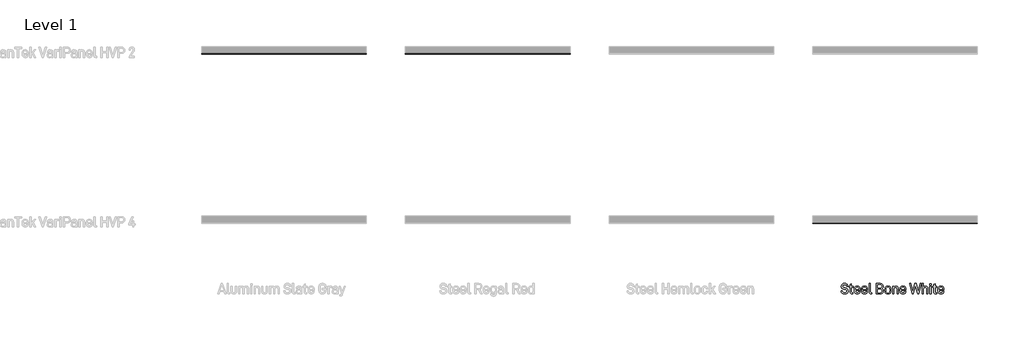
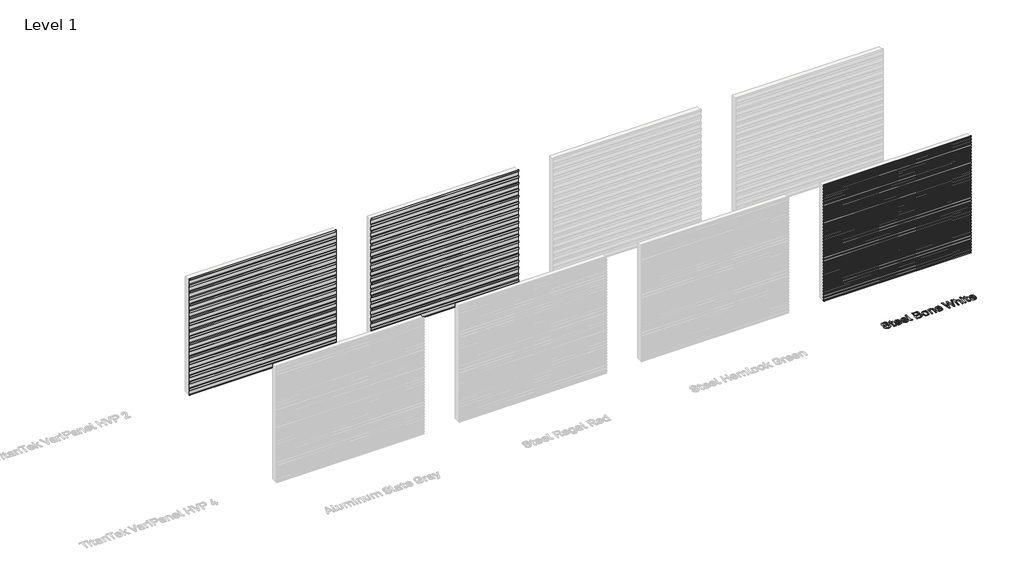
# One storey, part 7 of 9: 4 proxies.
"""IFC4 building model written with IfcOpenShell, lengths in millimetres."""

from ifc_helpers import new_model, si_unit, frame, origin, origin_with_axes, place, context, project, spatial, polyline, outline, extrude, element, save

model = new_model("IFC4")

# Units and contexts
model_context = context("Model", 3, world=origin())
ifc_project = project(units=[si_unit("LENGTHUNIT", "METRE", prefix="MILLI")], contexts=[model_context])

# Site, building, storey
site = spatial("IfcSite", under=ifc_project)
building = spatial("IfcBuilding", under=site)
storey = spatial("IfcBuildingStorey", under=building, Name="Level 1", Elevation=0.0)

# Proxies
placement = place(None, origin())
element("IfcBuildingElementProxy", 1, Name="600mm Arial 2", ObjectType="600mm Arial 2", at=placement, inside=storey, context=model_context, shape_type="SweptSolid", body=[
    extrude(outline(polyline([(16502.982716, -19997.657289), (16490.7951671, -19984.0139672), (16481.6010513, -19967.4681982), (16475.4003686, -19948.019982), (16472.1931189, -19925.6693185), (16511.5717761, -19925.6693185), (16517.1719526, -19951.3682597), (16530.1146836, -19969.7246463), (16550.3999693, -19980.7384782), (16578.0278096, -19984.4097555), (16606.0696353, -19981.079675), (16625.9955271, -19971.0894334), (16637.8964706, -19955.2215086), (16641.8634518, -19933.3849149), (16638.7517372, -19913.7865721), (16629.4165934, -19899.5381947), (16613.1665283, -19889.7845162), (16590.0379361, -19883.67027), (16556.5551591, -19878.0655442), (16523.7820715, -19868.4392459), (16499.1249177, -19852.3711523), (16490.1446186, -19841.4937991), (16483.7301192, -19828.5874624), (16478.5985197, -19796.6878384), (16480.3408979, -19777.2168757), (16485.5680325, -19760.002361), (16494.2799235, -19745.0442944), (16506.476571, -19732.3426757), (16521.2117224, -19722.4070256), (16538.048646, -19715.3101326), (16578.0278096, -19709.6326183), (16615.1864132, -19715.0007809), (16631.118028, -19721.7109842), (16645.2845182, -19731.1052687), (16657.722278, -19743.9615633), (16667.1575062, -19759.8203894), (16673.5902027, -19778.6817472), (16677.0203677, -19800.5456367), (16637.5689217, -19800.5456367), (16632.7011811, -19776.343412), (16621.0822935, -19759.0561086), (16602.7122591, -19748.6837266), (16577.5910777, -19745.226266), (16551.6783199, -19748.5563465), (16533.0444266, -19758.5465881), (16521.471032, -19774.1597526), (16517.6132337, -19794.5041791), (16520.5065824, -19812.3010029), (16529.1866284, -19825.3665648), (16544.6178213, -19834.9018774), (16566.8911468, -19841.2344896), (16601.1745989, -19847.2031585), (16635.2396851, -19857.1934001), (16660.2789792, -19874.207746), (16669.4821935, -19885.5218311), (16676.0559181, -19898.8648997), (16681.3148977, -19931.6379874), (16679.5179281, -19951.6503157), (16674.127019, -19969.2515201), (16665.1421705, -19984.4416005), (16652.5633827, -19997.2205571), (16637.1776828, -20007.3472775), (16619.2625774, -20014.5806491), (16598.8180665, -20018.9206721), (16575.8441502, -20020.3673465), (16534.9187342, -20014.6898321), (16517.8270504, -20007.5929391), (16502.982716, -19997.657289)])), origin_with_axes(), (0.0, 0.0, 1.0), 5.0),
    extrude(outline(polyline([(16777.9054305, -19958.2058431), (16779.3794006, -19969.2879144), (16783.8013108, -19977.2036796), (16791.1711612, -19981.9531387), (16801.4889517, -19983.5362918), (16822.9616021, -19983.5362918), (16822.9616021, -20017.8197439), (16796.8304784, -20017.8197439), (16773.0467884, -20013.8527627), (16754.8314298, -20001.9518191), (16743.5309926, -19983.4089116), (16739.7641802, -19959.5160387), (16739.7641802, -19823.692426), (16705.91746, -19823.692426), (16705.91746, -19791.9565765), (16739.7641802, -19791.9565765), (16739.7641802, -19743.9160704), (16777.9054305, -19725.9372749), (16777.9054305, -19791.9565765), (16826.8194004, -19791.9565765), (16826.8194004, -19823.692426), (16777.9054305, -19823.692426), (16777.9054305, -19958.2058431)])), origin_with_axes(), (0.0, 0.0, 1.0), 5.0),
    extrude(outline(polyline([(16898.8073709, -19923.5584478), (16902.2284372, -19952.9741592), (16912.4916363, -19971.9265028), (16928.9782645, -19982.2169976), (16951.0696184, -19985.6471625), (16970.3404124, -19983.0813627), (16984.4796068, -19975.3839635), (16993.1596528, -19963.6104), (16996.0530014, -19947.9426441), (16996.0530014, -19942.410707), (17032.9568448, -19942.410707), (17032.9568448, -19948.8161078), (17027.2793304, -19977.9679604), (17020.1824375, -19990.2783401), (17010.2467873, -20001.0783554), (16983.5333544, -20015.5450987), (16948.9587477, -20020.3673465), (16930.0086788, -20018.8683553), (16913.0466497, -20014.3713818), (16898.0726605, -20006.8764259), (16885.0867112, -19996.3834877), (16874.593773, -19982.7833842), (16867.0988171, -19965.9669324), (16862.6018436, -19945.9341324), (16861.1028524, -19922.684984), (16861.1028524, -19884.9804656), (16862.599569, -19862.2749574), (16867.0897186, -19842.635671), (16874.5733012, -19826.0626062), (16885.0503169, -19812.5557632), (16897.8338227, -19802.2379727), (16912.6008192, -19794.8681223), (16929.3513063, -19790.4462121), (16948.085284, -19788.972242), (16966.4871634, -19790.4462121), (16983.1148197, -19794.8681223), (16997.9682527, -19802.2379727), (17011.0474624, -19812.5557632), (17021.365253, -19825.8988318), (17028.7351033, -19842.4173051), (17033.1570136, -19862.111183), (17034.6309836, -19884.9804656), (17034.6309836, -19914.9693876), (16898.8073709, -19914.9693876), (16898.8073709, -19923.5584478)]), holes=[polyline([(16912.0549044, -19837.3766913), (16902.1192543, -19855.5010641), (16898.8073709, -19884.1070018), (16996.9264652, -19884.5437337), (16996.9264652, -19881.1226674), (16993.7055676, -19853.8815167), (16984.0428749, -19836.5032276), (16968.4297104, -19827.2226753), (16948.085284, -19824.1291578), (16927.7226604, -19827.4410412), (16912.0549044, -19837.3766913)])]), origin_with_axes(), (0.0, 0.0, 1.0), 5.0),
    extrude(outline(polyline([(17113.0971436, -19923.5584478), (17116.51821, -19952.9741592), (17126.781409, -19971.9265028), (17143.2680372, -19982.2169976), (17165.3593912, -19985.6471625), (17184.6301851, -19983.0813627), (17198.7693795, -19975.3839635), (17207.4494255, -19963.6104), (17210.3427742, -19947.9426441), (17210.3427742, -19942.410707), (17247.2466175, -19942.410707), (17247.2466175, -19948.8161078), (17241.5691031, -19977.9679604), (17234.4722102, -19990.2783401), (17224.5365601, -20001.0783554), (17197.8231271, -20015.5450987), (17163.2485204, -20020.3673465), (17144.2984515, -20018.8683553), (17127.3364224, -20014.3713818), (17112.3624332, -20006.8764259), (17099.3764839, -19996.3834877), (17088.8835457, -19982.7833842), (17081.3885899, -19965.9669324), (17076.8916163, -19945.9341324), (17075.3926252, -19922.684984), (17075.3926252, -19884.9804656), (17076.8893417, -19862.2749574), (17081.3794913, -19842.635671), (17088.8630739, -19826.0626062), (17099.3400896, -19812.5557632), (17112.1235955, -19802.2379727), (17126.890592, -19794.8681223), (17143.641079, -19790.4462121), (17162.3750567, -19788.972242), (17180.7769362, -19790.4462121), (17197.4045924, -19794.8681223), (17212.2580254, -19802.2379727), (17225.3372352, -19812.5557632), (17235.6550257, -19825.8988318), (17243.0248761, -19842.4173051), (17247.4467863, -19862.111183), (17248.9207564, -19884.9804656), (17248.9207564, -19914.9693876), (17113.0971436, -19914.9693876), (17113.0971436, -19923.5584478)]), holes=[polyline([(17126.3446771, -19837.3766913), (17116.409027, -19855.5010641), (17113.0971436, -19884.1070018), (17211.2162379, -19884.5437337), (17211.2162379, -19881.1226674), (17207.9953403, -19853.8815167), (17198.3326476, -19836.5032276), (17182.7194832, -19827.2226753), (17162.3750567, -19824.1291578), (17142.0124331, -19827.4410412), (17126.3446771, -19837.3766913)])]), origin_with_axes(), (0.0, 0.0, 1.0), 5.0),
    extrude(outline(polyline([(17311.5189916, -20001.9518191), (17300.2731458, -19982.4444621), (17296.5245306, -19956.5317042), (17296.5245306, -19713.4904165), (17334.229049, -19713.4904165), (17334.229049, -19954.7847767), (17335.6120333, -19968.1960847), (17339.7609861, -19976.6941591), (17346.7486961, -19981.1706608), (17357.3758383, -19982.662828), (17379.212432, -19982.662828), (17379.212432, -20017.8197439), (17354.3915039, -20017.8197439), (17329.5159842, -20013.8527627), (17311.5189916, -20001.9518191)])), origin_with_axes(), (0.0, 0.0, 1.0), 5.0),
    extrude(outline(polyline([(17704.1409461, -19884.9804656), (17714.1311877, -19906.6896791), (17717.4612683, -19932.5114512), (17715.8803899, -19951.3819076), (17711.1377547, -19968.1050989), (17703.2333627, -19982.6810252), (17692.1672139, -19995.1096864), (17678.3942374, -20005.0453365), (17662.3693621, -20012.1422295), (17623.5639154, -20017.8197439), (17508.2667007, -20017.8197439), (17508.2667007, -19713.4904165), (17621.0163128, -19713.4904165), (17659.4487177, -19718.8585791), (17675.0618822, -19725.5687824), (17688.2730214, -19734.9630669), (17698.9729523, -19746.9549963), (17706.6157601, -19761.0941907), (17711.2014447, -19777.3806502), (17712.7300063, -19795.8143747), (17709.5091087, -19818.6518123), (17699.846416, -19839.1236188), (17688.4004015, -19852.1891807), (17674.588756, -19861.3969444), (17691.4029331, -19871.5873548), (17704.1409461, -19884.9804656)]), holes=[polyline([(17548.1548785, -19844.218824), (17617.5952465, -19844.218824), (17640.9422045, -19841.3254754), (17658.7208312, -19832.6454294), (17669.3115792, -19818.0695031), (17672.8418285, -19797.4885135), (17669.4207621, -19777.0349041), (17659.1575631, -19761.9676545), (17641.9794427, -19752.9600596), (17617.9591897, -19749.9575279), (17548.1548785, -19749.9575279), (17548.1548785, -19844.218824)]), polyline([(17662.5786295, -19968.1050989), (17673.8244752, -19952.4555401), (17677.5730905, -19930.4005805), (17673.9336582, -19908.7277612), (17663.0153613, -19893.4967371), (17645.0183687, -19883.8886359), (17620.1428491, -19880.6859355), (17548.1548785, -19880.6859355), (17548.1548785, -19981.3526324), (17619.7061172, -19981.3526324), (17644.5816368, -19978.040749), (17662.5786295, -19968.1050989)])]), origin_with_axes(), (0.0, 0.0, 1.0), 5.0),
    extrude(outline(polyline([(17788.794141, -19998.0940209), (17778.3171253, -19985.1330927), (17770.8335427, -19968.9603655), (17766.3433931, -19949.5758393), (17764.8466766, -19926.9795141), (17764.8466766, -19882.3600743), (17766.3456677, -19859.9548194), (17770.8426412, -19840.7067719), (17778.3375971, -19824.6159319), (17788.8305353, -19811.6822994), (17801.8164846, -19801.7466493), (17816.7904738, -19794.6497564), (17852.7025718, -19788.972242), (17887.5865302, -19794.6497564), (17902.3125831, -19801.7466493), (17915.2280184, -19811.6822994), (17925.7368791, -19824.4521575), (17933.2432082, -19840.4884059), (17937.7470057, -19859.7910449), (17939.2482715, -19882.3600743), (17939.2482715, -19926.9795141), (17937.7470057, -19949.5485435), (17933.2432082, -19968.8511825), (17925.7368791, -19984.887431), (17915.2280184, -19997.657289), (17902.3125831, -20007.5929391), (17887.5865302, -20014.6898321), (17852.7025718, -20020.3673465), (17816.5630093, -20014.7990151), (17801.6322383, -20007.8386008), (17788.794141, -19998.0940209)]), holes=[polyline([(17888.2234309, -19972.399629), (17898.2136725, -19954.1660733), (17901.543753, -19925.2325866), (17901.543753, -19884.1070018), (17898.2136725, -19855.5010641), (17888.2234309, -19837.3766913), (17872.9378153, -19827.4410412), (17852.7025718, -19824.1291578), (17831.6848504, -19827.4410412), (17815.7987285, -19837.3766913), (17805.8630784, -19855.5010641), (17802.551195, -19884.1070018), (17802.551195, -19925.2325866), (17805.8630784, -19954.1660733), (17815.7987285, -19972.399629), (17831.6848504, -19982.3352791), (17852.7025718, -19985.6471625), (17872.9378153, -19982.3352791), (17888.2234309, -19972.399629)])]), origin_with_axes(), (0.0, 0.0, 1.0), 5.0),
    extrude(outline(polyline([(18027.9048419, -19791.9565765), (18027.9048419, -19810.3721038), (18046.3203692, -19797.1245703), (18063.4802924, -19791.337873), (18082.3507488, -19789.4089739), (18114.6871046, -19794.8681223), (18127.8118073, -19801.6920578), (18138.9075264, -19811.2455676), (18147.5375302, -19822.8280608), (18153.7018187, -19836.6124106), (18158.6332494, -19870.7866797), (18158.6332494, -20017.8197439), (18120.928731, -20017.8197439), (18120.928731, -19875.0812098), (18117.9261993, -19852.6987012), (18108.9186044, -19836.9399595), (18094.2243966, -19827.3318582), (18075.0354899, -19824.1291578), (18055.8647804, -19827.3318582), (18041.225164, -19836.9399595), (18031.5624713, -19853.3537991), (18028.3415737, -19875.0812098), (18028.3415737, -20017.8197439), (17990.6370553, -20017.8197439), (17990.6370553, -19791.9565765), (18027.9048419, -19791.9565765)])), origin_with_axes(), (0.0, 0.0, 1.0), 5.0),
    extrude(outline(polyline([(18245.1061604, -19923.5584478), (18248.5272268, -19952.9741592), (18258.7904258, -19971.9265028), (18275.277054, -19982.2169976), (18297.368408, -19985.6471625), (18316.6392019, -19983.0813627), (18330.7783963, -19975.3839635), (18339.4584423, -19963.6104), (18342.351791, -19947.9426441), (18342.351791, -19942.410707), (18379.2556343, -19942.410707), (18379.2556343, -19948.8161078), (18373.5781199, -19977.9679604), (18366.481227, -19990.2783401), (18356.5455769, -20001.0783554), (18329.8321439, -20015.5450987), (18295.2575372, -20020.3673465), (18276.3074683, -20018.8683553), (18259.3454392, -20014.3713818), (18244.37145, -20006.8764259), (18231.3855007, -19996.3834877), (18220.8925625, -19982.7833842), (18213.3976067, -19965.9669324), (18208.9006331, -19945.9341324), (18207.401642, -19922.684984), (18207.401642, -19884.9804656), (18208.8983585, -19862.2749574), (18213.3885081, -19842.635671), (18220.8720907, -19826.0626062), (18231.3491064, -19812.5557632), (18244.1326123, -19802.2379727), (18258.8996088, -19794.8681223), (18275.6500958, -19790.4462121), (18294.3840735, -19788.972242), (18312.785953, -19790.4462121), (18329.4136092, -19794.8681223), (18344.2670422, -19802.2379727), (18357.346252, -19812.5557632), (18367.6640425, -19825.8988318), (18375.0338929, -19842.4173051), (18379.4558031, -19862.111183), (18380.9297732, -19884.9804656), (18380.9297732, -19914.9693876), (18245.1061604, -19914.9693876), (18245.1061604, -19923.5584478)]), holes=[polyline([(18258.3536939, -19837.3766913), (18248.4180438, -19855.5010641), (18245.1061604, -19884.1070018), (18343.2252547, -19884.5437337), (18343.2252547, -19881.1226674), (18340.0043571, -19853.8815167), (18330.3416644, -19836.5032276), (18314.7285, -19827.2226753), (18294.3840735, -19824.1291578), (18274.0214499, -19827.4410412), (18258.3536939, -19837.3766913)])]), origin_with_axes(), (0.0, 0.0, 1.0), 5.0),
    extrude(outline(polyline([(18799.3916969, -19713.4904165), (18837.5329472, -19713.4904165), (18761.2504466, -20017.8197439), (18726.5302626, -20017.8197439), (18664.3687592, -19774.7784561), (18603.9541834, -20017.8197439), (18569.2339994, -20017.8197439), (18491.2773599, -19713.4904165), (18530.6560172, -19713.4904165), (18587.2855835, -19944.0848458), (18641.6587018, -19713.4904165), (18688.3890123, -19713.4904165), (18744.9457899, -19944.0848458), (18799.3916969, -19713.4904165)])), origin_with_axes(), (0.0, 0.0, 1.0), 5.0),
    extrude(outline(polyline([(18899.4760846, -19713.4904165), (18899.4760846, -19810.8088357), (18923.0596058, -19794.7589393), (18953.4852597, -19789.4089739), (18985.2757006, -19794.7589393), (18998.3731076, -19801.4463961), (19009.6053054, -19810.8088357), (19018.4263794, -19822.5823991), (19024.7271466, -19836.5032276), (19029.7677603, -19870.7866797), (19029.7677603, -20017.8197439), (18992.0632418, -20017.8197439), (18992.0632418, -19875.0812098), (18989.0607102, -19852.6987012), (18980.0531153, -19836.9399595), (18965.3589075, -19827.3318582), (18946.1700008, -19824.1291578), (18926.9992912, -19827.3318582), (18912.3596749, -19836.9399595), (18902.6969822, -19853.3537991), (18899.4760846, -19875.0812098), (18899.4760846, -20017.8197439), (18861.7715662, -20017.8197439), (18861.7715662, -19713.4904165), (18899.4760846, -19713.4904165)])), origin_with_axes(), (0.0, 0.0, 1.0), 5.0),
    extrude(outline(polyline([(19127.3773341, -19717.7849466), (19127.3773341, -19764.9519889), (19087.9258881, -19764.9519889), (19087.9258881, -19717.7849466), (19127.3773341, -19717.7849466)])), origin_with_axes(), (0.0, 0.0, 1.0), 5.0),
    extrude(outline(polyline([(19126.5038703, -19791.9565765), (19126.5038703, -20017.8197439), (19088.7993519, -20017.8197439), (19088.7993519, -19791.9565765), (19126.5038703, -19791.9565765)])), origin_with_axes(), (0.0, 0.0, 1.0), 5.0),
    extrude(outline(polyline([(19242.2378169, -19958.2058431), (19243.7117869, -19969.2879144), (19248.1336972, -19977.2036796), (19255.5035475, -19981.9531387), (19265.821338, -19983.5362918), (19287.2939885, -19983.5362918), (19287.2939885, -20017.8197439), (19261.1628647, -20017.8197439), (19237.3791748, -20013.8527627), (19219.1638162, -20001.9518191), (19207.863379, -19983.4089116), (19204.0965666, -19959.5160387), (19204.0965666, -19823.692426), (19170.2498463, -19823.692426), (19170.2498463, -19791.9565765), (19204.0965666, -19791.9565765), (19204.0965666, -19743.9160704), (19242.2378169, -19725.9372749), (19242.2378169, -19791.9565765), (19291.1517867, -19791.9565765), (19291.1517867, -19823.692426), (19242.2378169, -19823.692426), (19242.2378169, -19958.2058431)])), origin_with_axes(), (0.0, 0.0, 1.0), 5.0),
    extrude(outline(polyline([(19363.1397572, -19923.5584478), (19366.5608236, -19952.9741592), (19376.8240226, -19971.9265028), (19393.3106509, -19982.2169976), (19415.4020048, -19985.6471625), (19434.6727987, -19983.0813627), (19448.8119932, -19975.3839635), (19457.4920391, -19963.6104), (19460.3853878, -19947.9426441), (19460.3853878, -19942.410707), (19497.2892311, -19942.410707), (19497.2892311, -19948.8161078), (19491.6117168, -19977.9679604), (19484.5148238, -19990.2783401), (19474.5791737, -20001.0783554), (19447.8657408, -20015.5450987), (19413.2911341, -20020.3673465), (19394.3410651, -20018.8683553), (19377.379036, -20014.3713818), (19362.4050469, -20006.8764259), (19349.4190975, -19996.3834877), (19338.9261594, -19982.7833842), (19331.4312035, -19965.9669324), (19326.93423, -19945.9341324), (19325.4352388, -19922.684984), (19325.4352388, -19884.9804656), (19326.9319553, -19862.2749574), (19331.4221049, -19842.635671), (19338.9056875, -19826.0626062), (19349.3827032, -19812.5557632), (19362.1662091, -19802.2379727), (19376.9332056, -19794.8681223), (19393.6836927, -19790.4462121), (19412.4176703, -19788.972242), (19430.8195498, -19790.4462121), (19447.447206, -19794.8681223), (19462.300639, -19802.2379727), (19475.3798488, -19812.5557632), (19485.6976393, -19825.8988318), (19493.0674897, -19842.4173051), (19497.4893999, -19862.111183), (19498.96337, -19884.9804656), (19498.96337, -19914.9693876), (19363.1397572, -19914.9693876), (19363.1397572, -19923.5584478)]), holes=[polyline([(19376.3872908, -19837.3766913), (19366.4516406, -19855.5010641), (19363.1397572, -19884.1070018), (19461.2588516, -19884.5437337), (19461.2588516, -19881.1226674), (19458.037954, -19853.8815167), (19448.3752613, -19836.5032276), (19432.7620968, -19827.2226753), (19412.4176703, -19824.1291578), (19392.0550467, -19827.4410412), (19376.3872908, -19837.3766913)])]), origin_with_axes(), (0.0, 0.0, 1.0), 5.0),
])
element("IfcBuildingElementProxy", 2, Name="TitanTek VariPanel HVP 2 : Aluminum Slate Gray", ObjectType="TitanTek VariPanel HVP 2 : Aluminum Slate Gray", at=placement, inside=storey, context=model_context, shape_type="SweptSolid", body=[
    extrude(outline(polyline([(-12945.79831, 3997.729257), (-12921.3904975, 3972.7489785), (-12921.3904975, 3845.7489785), (-12945.79831, 3836.3796971), (-12945.79831, 3768.1495599), (-12921.3904975, 3743.1692814), (-12921.3904975, 3616.1692814), (-12945.79831, 3606.8), (-12945.79831, 3607.8627767), (-12922.382685, 3616.851193), (-12922.382685, 3742.7650244), (-12946.7904975, 3767.7453029), (-12946.7904975, 3837.0616087), (-12922.382685, 3846.43089), (-12922.382685, 3972.3447215), (-12946.7904975, 3997.325), (-12946.7904975, 4057.2691349), (-12945.79831, 4057.65), (-12945.79831, 3997.729257)])), frame((-2360.5897817, 0.0, 0.0), z_axis=(1.0, 0.0, 0.0), x_axis=(0.0, 1.0, 0.0)), (0.0, 0.0, 1.0), 4850.0),
    extrude(outline(polyline([(-12945.79831, 3546.879257), (-12921.3904975, 3521.8989785), (-12921.3904975, 3394.8989785), (-12945.79831, 3385.5296971), (-12945.79831, 3317.2995599), (-12921.3904975, 3292.3192814), (-12921.3904975, 3165.3192814), (-12945.79831, 3155.95), (-12945.79831, 3157.0127767), (-12922.382685, 3166.001193), (-12922.382685, 3291.9150244), (-12946.7904975, 3316.8953029), (-12946.7904975, 3386.2116087), (-12922.382685, 3395.58089), (-12922.382685, 3521.4947215), (-12946.7904975, 3546.475), (-12946.7904975, 3606.4191349), (-12945.79831, 3606.8), (-12945.79831, 3546.879257)])), frame((-2360.5897817, 0.0, 0.0), z_axis=(1.0, 0.0, 0.0), x_axis=(0.0, 1.0, 0.0)), (0.0, 0.0, 1.0), 4850.0),
    extrude(outline(polyline([(-12945.79831, 3096.029257), (-12921.3904975, 3071.0489785), (-12921.3904975, 2944.0489785), (-12945.79831, 2934.6796971), (-12945.79831, 2866.4495599), (-12921.3904975, 2841.4692814), (-12921.3904975, 2714.4692814), (-12945.79831, 2705.1), (-12945.79831, 2706.1627767), (-12922.382685, 2715.151193), (-12922.382685, 2841.0650244), (-12946.7904975, 2866.0453029), (-12946.7904975, 2935.3616087), (-12922.382685, 2944.73089), (-12922.382685, 3070.6447215), (-12946.7904975, 3095.625), (-12946.7904975, 3155.5691349), (-12945.79831, 3155.95), (-12945.79831, 3096.029257)])), frame((-2360.5897817, 0.0, 0.0), z_axis=(1.0, 0.0, 0.0), x_axis=(0.0, 1.0, 0.0)), (0.0, 0.0, 1.0), 4850.0),
    extrude(outline(polyline([(-12945.79831, 2645.179257), (-12921.3904975, 2620.1989785), (-12921.3904975, 2493.1989785), (-12945.79831, 2483.8296971), (-12945.79831, 2415.5995599), (-12921.3904975, 2390.6192814), (-12921.3904975, 2263.6192814), (-12945.79831, 2254.25), (-12945.79831, 2255.3127767), (-12922.382685, 2264.301193), (-12922.382685, 2390.2150244), (-12946.7904975, 2415.1953029), (-12946.7904975, 2484.5116087), (-12922.382685, 2493.88089), (-12922.382685, 2619.7947215), (-12946.7904975, 2644.775), (-12946.7904975, 2704.7191349), (-12945.79831, 2705.1), (-12945.79831, 2645.179257)])), frame((-2360.5897817, 0.0, 0.0), z_axis=(1.0, 0.0, 0.0), x_axis=(0.0, 1.0, 0.0)), (0.0, 0.0, 1.0), 4850.0),
    extrude(outline(polyline([(-12945.79831, 2194.329257), (-12921.3904975, 2169.3489785), (-12921.3904975, 2042.3489785), (-12945.79831, 2032.9796971), (-12945.79831, 1964.7495599), (-12921.3904975, 1939.7692814), (-12921.3904975, 1812.7692814), (-12945.79831, 1803.4), (-12945.79831, 1804.4627767), (-12922.382685, 1813.451193), (-12922.382685, 1939.3650244), (-12946.7904975, 1964.3453029), (-12946.7904975, 2033.6616087), (-12922.382685, 2043.03089), (-12922.382685, 2168.9447215), (-12946.7904975, 2193.925), (-12946.7904975, 2253.8691349), (-12945.79831, 2254.25), (-12945.79831, 2194.329257)])), frame((-2360.5897817, 0.0, 0.0), z_axis=(1.0, 0.0, 0.0), x_axis=(0.0, 1.0, 0.0)), (0.0, 0.0, 1.0), 4850.0),
    extrude(outline(polyline([(-12945.79831, 1743.479257), (-12921.3904975, 1718.4989785), (-12921.3904975, 1591.4989785), (-12945.79831, 1582.1296971), (-12945.79831, 1513.8995599), (-12921.3904975, 1488.9192814), (-12921.3904975, 1361.9192814), (-12945.79831, 1352.55), (-12945.79831, 1353.6127767), (-12922.382685, 1362.601193), (-12922.382685, 1488.5150244), (-12946.7904975, 1513.4953029), (-12946.7904975, 1582.8116087), (-12922.382685, 1592.18089), (-12922.382685, 1718.0947215), (-12946.7904975, 1743.075), (-12946.7904975, 1803.0191349), (-12945.79831, 1803.4), (-12945.79831, 1743.479257)])), frame((-2360.5897817, 0.0, 0.0), z_axis=(1.0, 0.0, 0.0), x_axis=(0.0, 1.0, 0.0)), (0.0, 0.0, 1.0), 4850.0),
    extrude(outline(polyline([(-12945.79831, 1292.629257), (-12921.3904975, 1267.6489785), (-12921.3904975, 1140.6489785), (-12945.79831, 1131.2796971), (-12945.79831, 1063.0495599), (-12921.3904975, 1038.0692814), (-12921.3904975, 911.0692814), (-12945.79831, 901.7), (-12945.79831, 902.7627767), (-12922.382685, 911.751193), (-12922.382685, 1037.6650244), (-12946.7904975, 1062.6453029), (-12946.7904975, 1131.9616087), (-12922.382685, 1141.33089), (-12922.382685, 1267.2447215), (-12946.7904975, 1292.225), (-12946.7904975, 1352.1691349), (-12945.79831, 1352.55), (-12945.79831, 1292.629257)])), frame((-2360.5897817, 0.0, 0.0), z_axis=(1.0, 0.0, 0.0), x_axis=(0.0, 1.0, 0.0)), (0.0, 0.0, 1.0), 4850.0),
    extrude(outline(polyline([(-12945.79831, 841.779257), (-12921.3904975, 816.7989785), (-12921.3904975, 689.7989785), (-12945.79831, 680.4296971), (-12945.79831, 612.1995599), (-12921.3904975, 587.2192814), (-12921.3904975, 460.2192814), (-12945.79831, 450.85), (-12945.79831, 451.9127767), (-12922.382685, 460.901193), (-12922.382685, 586.8150244), (-12946.7904975, 611.7953029), (-12946.7904975, 681.1116087), (-12922.382685, 690.48089), (-12922.382685, 816.3947215), (-12946.7904975, 841.375), (-12946.7904975, 901.3191349), (-12945.79831, 901.7), (-12945.79831, 841.779257)])), frame((-2360.5897817, 0.0, 0.0), z_axis=(1.0, 0.0, 0.0), x_axis=(0.0, 1.0, 0.0)), (0.0, 0.0, 1.0), 4850.0),
    extrude(outline(polyline([(-12945.79831, 390.929257), (-12921.3904975, 365.9489785), (-12921.3904975, 238.9489785), (-12945.79831, 229.5796971), (-12945.79831, 161.3495599), (-12921.3904975, 136.3692814), (-12921.3904975, 9.3692814), (-12945.79831, 0.0), (-12945.79831, 1.0627767), (-12922.382685, 10.051193), (-12922.382685, 135.9650244), (-12946.7904975, 160.9453029), (-12946.7904975, 230.2616087), (-12922.382685, 239.63089), (-12922.382685, 365.5447215), (-12946.7904975, 390.525), (-12946.7904975, 450.4691349), (-12945.79831, 450.85), (-12945.79831, 390.929257)])), frame((-2360.5897817, 0.0, 0.0), z_axis=(1.0, 0.0, 0.0), x_axis=(0.0, 1.0, 0.0)), (0.0, 0.0, 1.0), 4850.0),
])
element("IfcBuildingElementProxy", 3, Name="TitanTek VariPanel HVP 4 : Steel Bone White", ObjectType="TitanTek VariPanel HVP 4 : Steel Bone White", at=placement, inside=storey, context=model_context, shape_type="SweptSolid", body=[
    extrude(outline(polyline([(-17945.79831, 375.054257), (-17921.3904975, 350.0739785), (-17921.3904975, 318.3239785), (-17945.79831, 308.9546971), (-17945.79831, 272.0693579), (-17921.3904975, 247.0890794), (-17921.3904975, 215.3390794), (-17945.79831, 205.9697981), (-17945.79831, 169.0844589), (-17921.3904975, 144.1041804), (-17921.3904975, 112.3541804), (-17945.79831, 102.984899), (-17945.79831, 66.0995599), (-17921.3904975, 41.1192814), (-17921.3904975, 9.3692814), (-17945.79831, 0.0), (-17945.79831, 1.0627767), (-17922.382685, 10.051193), (-17922.382685, 40.7150244), (-17946.7904975, 65.6953029), (-17946.7904975, 103.6668106), (-17922.382685, 113.036092), (-17922.382685, 143.6999234), (-17946.7904975, 168.6802019), (-17946.7904975, 206.6517096), (-17922.382685, 216.020991), (-17922.382685, 246.6848225), (-17946.7904975, 271.665101), (-17946.7904975, 309.6366087), (-17922.382685, 319.00589), (-17922.382685, 349.6697215), (-17946.7904975, 374.65), (-17946.7904975, 407.0819116), (-17945.79831, 407.4627767), (-17945.79831, 375.054257)])), frame((15639.4102183, 0.0, 0.0), z_axis=(1.0, 0.0, 0.0), x_axis=(0.0, 1.0, 0.0)), (0.0, 0.0, 1.0), 4850.0),
    extrude(outline(polyline([(-17945.79831, 781.454257), (-17921.3904975, 756.4739785), (-17921.3904975, 724.7239785), (-17945.79831, 715.3546971), (-17945.79831, 678.4693579), (-17921.3904975, 653.4890794), (-17921.3904975, 621.7390794), (-17945.79831, 612.3697981), (-17945.79831, 575.4844589), (-17921.3904975, 550.5041804), (-17921.3904975, 518.7541804), (-17945.79831, 509.384899), (-17945.79831, 472.4995599), (-17921.3904975, 447.5192814), (-17921.3904975, 415.7692814), (-17945.79831, 406.4), (-17945.79831, 407.4627767), (-17922.382685, 416.451193), (-17922.382685, 447.1150244), (-17946.7904975, 472.0953029), (-17946.7904975, 510.0668106), (-17922.382685, 519.436092), (-17922.382685, 550.0999234), (-17946.7904975, 575.0802019), (-17946.7904975, 613.0517096), (-17922.382685, 622.420991), (-17922.382685, 653.0848225), (-17946.7904975, 678.065101), (-17946.7904975, 716.0366087), (-17922.382685, 725.40589), (-17922.382685, 756.0697215), (-17946.7904975, 781.05), (-17946.7904975, 813.4819116), (-17945.79831, 813.8627767), (-17945.79831, 781.454257)])), frame((15639.4102183, 0.0, 0.0), z_axis=(1.0, 0.0, 0.0), x_axis=(0.0, 1.0, 0.0)), (0.0, 0.0, 1.0), 4850.0),
    extrude(outline(polyline([(-17945.79831, 1187.854257), (-17921.3904975, 1162.8739785), (-17921.3904975, 1131.1239785), (-17945.79831, 1121.7546971), (-17945.79831, 1084.8693579), (-17921.3904975, 1059.8890794), (-17921.3904975, 1028.1390794), (-17945.79831, 1018.7697981), (-17945.79831, 981.8844589), (-17921.3904975, 956.9041804), (-17921.3904975, 925.1541804), (-17945.79831, 915.784899), (-17945.79831, 878.8995599), (-17921.3904975, 853.9192814), (-17921.3904975, 822.1692814), (-17945.79831, 812.8), (-17945.79831, 813.8627767), (-17922.382685, 822.851193), (-17922.382685, 853.5150244), (-17946.7904975, 878.4953029), (-17946.7904975, 916.4668106), (-17922.382685, 925.836092), (-17922.382685, 956.4999234), (-17946.7904975, 981.4802019), (-17946.7904975, 1019.4517096), (-17922.382685, 1028.820991), (-17922.382685, 1059.4848225), (-17946.7904975, 1084.465101), (-17946.7904975, 1122.4366087), (-17922.382685, 1131.80589), (-17922.382685, 1162.4697215), (-17946.7904975, 1187.45), (-17946.7904975, 1219.8819116), (-17945.79831, 1220.2627767), (-17945.79831, 1187.854257)])), frame((15639.4102183, 0.0, 0.0), z_axis=(1.0, 0.0, 0.0), x_axis=(0.0, 1.0, 0.0)), (0.0, 0.0, 1.0), 4850.0),
    extrude(outline(polyline([(-17945.79831, 1594.254257), (-17921.3904975, 1569.2739785), (-17921.3904975, 1537.5239785), (-17945.79831, 1528.1546971), (-17945.79831, 1491.2693579), (-17921.3904975, 1466.2890794), (-17921.3904975, 1434.5390794), (-17945.79831, 1425.1697981), (-17945.79831, 1388.2844589), (-17921.3904975, 1363.3041804), (-17921.3904975, 1331.5541804), (-17945.79831, 1322.184899), (-17945.79831, 1285.2995599), (-17921.3904975, 1260.3192814), (-17921.3904975, 1228.5692814), (-17945.79831, 1219.2), (-17945.79831, 1220.2627767), (-17922.382685, 1229.251193), (-17922.382685, 1259.9150244), (-17946.7904975, 1284.8953029), (-17946.7904975, 1322.8668106), (-17922.382685, 1332.236092), (-17922.382685, 1362.8999234), (-17946.7904975, 1387.8802019), (-17946.7904975, 1425.8517096), (-17922.382685, 1435.220991), (-17922.382685, 1465.8848225), (-17946.7904975, 1490.865101), (-17946.7904975, 1528.8366087), (-17922.382685, 1538.20589), (-17922.382685, 1568.8697215), (-17946.7904975, 1593.85), (-17946.7904975, 1626.2819116), (-17945.79831, 1626.6627767), (-17945.79831, 1594.254257)])), frame((15639.4102183, 0.0, 0.0), z_axis=(1.0, 0.0, 0.0), x_axis=(0.0, 1.0, 0.0)), (0.0, 0.0, 1.0), 4850.0),
    extrude(outline(polyline([(-17945.79831, 2000.654257), (-17921.3904975, 1975.6739785), (-17921.3904975, 1943.9239785), (-17945.79831, 1934.5546971), (-17945.79831, 1897.6693579), (-17921.3904975, 1872.6890794), (-17921.3904975, 1840.9390794), (-17945.79831, 1831.5697981), (-17945.79831, 1794.6844589), (-17921.3904975, 1769.7041804), (-17921.3904975, 1737.9541804), (-17945.79831, 1728.584899), (-17945.79831, 1691.6995599), (-17921.3904975, 1666.7192814), (-17921.3904975, 1634.9692814), (-17945.79831, 1625.6), (-17945.79831, 1626.6627767), (-17922.382685, 1635.651193), (-17922.382685, 1666.3150244), (-17946.7904975, 1691.2953029), (-17946.7904975, 1729.2668106), (-17922.382685, 1738.636092), (-17922.382685, 1769.2999234), (-17946.7904975, 1794.2802019), (-17946.7904975, 1832.2517096), (-17922.382685, 1841.620991), (-17922.382685, 1872.2848225), (-17946.7904975, 1897.265101), (-17946.7904975, 1935.2366087), (-17922.382685, 1944.60589), (-17922.382685, 1975.2697215), (-17946.7904975, 2000.25), (-17946.7904975, 2032.6819116), (-17945.79831, 2033.0627767), (-17945.79831, 2000.654257)])), frame((15639.4102183, 0.0, 0.0), z_axis=(1.0, 0.0, 0.0), x_axis=(0.0, 1.0, 0.0)), (0.0, 0.0, 1.0), 4850.0),
    extrude(outline(polyline([(-17945.79831, 2407.054257), (-17921.3904975, 2382.0739785), (-17921.3904975, 2350.3239785), (-17945.79831, 2340.9546971), (-17945.79831, 2304.0693579), (-17921.3904975, 2279.0890794), (-17921.3904975, 2247.3390794), (-17945.79831, 2237.9697981), (-17945.79831, 2201.0844589), (-17921.3904975, 2176.1041804), (-17921.3904975, 2144.3541804), (-17945.79831, 2134.984899), (-17945.79831, 2098.0995599), (-17921.3904975, 2073.1192814), (-17921.3904975, 2041.3692814), (-17945.79831, 2032.0), (-17945.79831, 2033.0627767), (-17922.382685, 2042.051193), (-17922.382685, 2072.7150244), (-17946.7904975, 2097.6953029), (-17946.7904975, 2135.6668106), (-17922.382685, 2145.036092), (-17922.382685, 2175.6999234), (-17946.7904975, 2200.6802019), (-17946.7904975, 2238.6517096), (-17922.382685, 2248.020991), (-17922.382685, 2278.6848225), (-17946.7904975, 2303.665101), (-17946.7904975, 2341.6366087), (-17922.382685, 2351.00589), (-17922.382685, 2381.6697215), (-17946.7904975, 2406.65), (-17946.7904975, 2439.0819116), (-17945.79831, 2439.4627767), (-17945.79831, 2407.054257)])), frame((15639.4102183, 0.0, 0.0), z_axis=(1.0, 0.0, 0.0), x_axis=(0.0, 1.0, 0.0)), (0.0, 0.0, 1.0), 4850.0),
    extrude(outline(polyline([(-17945.79831, 2813.454257), (-17921.3904975, 2788.4739785), (-17921.3904975, 2756.7239785), (-17945.79831, 2747.3546971), (-17945.79831, 2710.4693579), (-17921.3904975, 2685.4890794), (-17921.3904975, 2653.7390794), (-17945.79831, 2644.3697981), (-17945.79831, 2607.4844589), (-17921.3904975, 2582.5041804), (-17921.3904975, 2550.7541804), (-17945.79831, 2541.384899), (-17945.79831, 2504.4995599), (-17921.3904975, 2479.5192814), (-17921.3904975, 2447.7692814), (-17945.79831, 2438.4), (-17945.79831, 2439.4627767), (-17922.382685, 2448.451193), (-17922.382685, 2479.1150244), (-17946.7904975, 2504.0953029), (-17946.7904975, 2542.0668106), (-17922.382685, 2551.436092), (-17922.382685, 2582.0999234), (-17946.7904975, 2607.0802019), (-17946.7904975, 2645.0517096), (-17922.382685, 2654.420991), (-17922.382685, 2685.0848225), (-17946.7904975, 2710.065101), (-17946.7904975, 2748.0366087), (-17922.382685, 2757.40589), (-17922.382685, 2788.0697215), (-17946.7904975, 2813.05), (-17946.7904975, 2845.4819116), (-17945.79831, 2845.8627767), (-17945.79831, 2813.454257)])), frame((15639.4102183, 0.0, 0.0), z_axis=(1.0, 0.0, 0.0), x_axis=(0.0, 1.0, 0.0)), (0.0, 0.0, 1.0), 4850.0),
    extrude(outline(polyline([(-17945.79831, 3219.854257), (-17921.3904975, 3194.8739785), (-17921.3904975, 3163.1239785), (-17945.79831, 3153.7546971), (-17945.79831, 3116.8693579), (-17921.3904975, 3091.8890794), (-17921.3904975, 3060.1390794), (-17945.79831, 3050.7697981), (-17945.79831, 3013.8844589), (-17921.3904975, 2988.9041804), (-17921.3904975, 2957.1541804), (-17945.79831, 2947.784899), (-17945.79831, 2910.8995599), (-17921.3904975, 2885.9192814), (-17921.3904975, 2854.1692814), (-17945.79831, 2844.8), (-17945.79831, 2845.8627767), (-17922.382685, 2854.851193), (-17922.382685, 2885.5150244), (-17946.7904975, 2910.4953029), (-17946.7904975, 2948.4668106), (-17922.382685, 2957.836092), (-17922.382685, 2988.4999234), (-17946.7904975, 3013.4802019), (-17946.7904975, 3051.4517096), (-17922.382685, 3060.820991), (-17922.382685, 3091.4848225), (-17946.7904975, 3116.465101), (-17946.7904975, 3154.4366087), (-17922.382685, 3163.80589), (-17922.382685, 3194.4697215), (-17946.7904975, 3219.45), (-17946.7904975, 3251.8819116), (-17945.79831, 3252.2627767), (-17945.79831, 3219.854257)])), frame((15639.4102183, 0.0, 0.0), z_axis=(1.0, 0.0, 0.0), x_axis=(0.0, 1.0, 0.0)), (0.0, 0.0, 1.0), 4850.0),
    extrude(outline(polyline([(-17945.79831, 3626.254257), (-17921.3904975, 3601.2739785), (-17921.3904975, 3569.5239785), (-17945.79831, 3560.1546971), (-17945.79831, 3523.2693579), (-17921.3904975, 3498.2890794), (-17921.3904975, 3466.5390794), (-17945.79831, 3457.1697981), (-17945.79831, 3420.2844589), (-17921.3904975, 3395.3041804), (-17921.3904975, 3363.5541804), (-17945.79831, 3354.184899), (-17945.79831, 3317.2995599), (-17921.3904975, 3292.3192814), (-17921.3904975, 3260.5692814), (-17945.79831, 3251.2), (-17945.79831, 3252.2627767), (-17922.382685, 3261.251193), (-17922.382685, 3291.9150244), (-17946.7904975, 3316.8953029), (-17946.7904975, 3354.8668106), (-17922.382685, 3364.236092), (-17922.382685, 3394.8999234), (-17946.7904975, 3419.8802019), (-17946.7904975, 3457.8517096), (-17922.382685, 3467.220991), (-17922.382685, 3497.8848225), (-17946.7904975, 3522.865101), (-17946.7904975, 3560.8366087), (-17922.382685, 3570.20589), (-17922.382685, 3600.8697215), (-17946.7904975, 3625.85), (-17946.7904975, 3658.2819116), (-17945.79831, 3658.6627767), (-17945.79831, 3626.254257)])), frame((15639.4102183, 0.0, 0.0), z_axis=(1.0, 0.0, 0.0), x_axis=(0.0, 1.0, 0.0)), (0.0, 0.0, 1.0), 4850.0),
    extrude(outline(polyline([(-17945.79831, 4032.654257), (-17921.3904975, 4007.6739785), (-17921.3904975, 3975.9239785), (-17945.79831, 3966.5546971), (-17945.79831, 3929.6693579), (-17921.3904975, 3904.6890794), (-17921.3904975, 3872.9390794), (-17945.79831, 3863.5697981), (-17945.79831, 3826.6844589), (-17921.3904975, 3801.7041804), (-17921.3904975, 3769.9541804), (-17945.79831, 3760.584899), (-17945.79831, 3723.6995599), (-17921.3904975, 3698.7192814), (-17921.3904975, 3666.9692814), (-17945.79831, 3657.6), (-17945.79831, 3658.6627767), (-17922.382685, 3667.651193), (-17922.382685, 3698.3150244), (-17946.7904975, 3723.2953029), (-17946.7904975, 3761.2668106), (-17922.382685, 3770.636092), (-17922.382685, 3801.2999234), (-17946.7904975, 3826.2802019), (-17946.7904975, 3864.2517096), (-17922.382685, 3873.620991), (-17922.382685, 3904.2848225), (-17946.7904975, 3929.265101), (-17946.7904975, 3967.2366087), (-17922.382685, 3976.60589), (-17922.382685, 4007.2697215), (-17946.7904975, 4032.25), (-17946.7904975, 4064.6819116), (-17945.79831, 4065.0627767), (-17945.79831, 4032.654257)])), frame((15639.4102183, 0.0, 0.0), z_axis=(1.0, 0.0, 0.0), x_axis=(0.0, 1.0, 0.0)), (0.0, 0.0, 1.0), 4850.0),
])
element("IfcBuildingElementProxy", 4, Name="TitanTek VariPanel HVP 2 : Steel Regal Red", ObjectType="TitanTek VariPanel HVP 2 : Steel Regal Red", at=placement, inside=storey, context=model_context, shape_type="SweptSolid", body=[
    extrude(outline(polyline([(-12945.79831, 390.929257), (-12921.3904975, 365.9489785), (-12921.3904975, 238.9489785), (-12945.79831, 229.5796971), (-12945.79831, 161.3495599), (-12921.3904975, 136.3692814), (-12921.3904975, 9.3692814), (-12945.79831, 0.0), (-12945.79831, 1.0627767), (-12922.382685, 10.051193), (-12922.382685, 135.9650244), (-12946.7904975, 160.9453029), (-12946.7904975, 230.2616087), (-12922.382685, 239.63089), (-12922.382685, 365.5447215), (-12946.7904975, 390.525), (-12946.7904975, 450.4691349), (-12945.79831, 450.85), (-12945.79831, 390.929257)])), frame((3639.4102183, 0.0, 0.0), z_axis=(1.0, 0.0, 0.0), x_axis=(0.0, 1.0, 0.0)), (0.0, 0.0, 1.0), 4850.0),
    extrude(outline(polyline([(-12945.79831, 841.779257), (-12921.3904975, 816.7989785), (-12921.3904975, 689.7989785), (-12945.79831, 680.4296971), (-12945.79831, 612.1995599), (-12921.3904975, 587.2192814), (-12921.3904975, 460.2192814), (-12945.79831, 450.85), (-12945.79831, 451.9127767), (-12922.382685, 460.901193), (-12922.382685, 586.8150244), (-12946.7904975, 611.7953029), (-12946.7904975, 681.1116087), (-12922.382685, 690.48089), (-12922.382685, 816.3947215), (-12946.7904975, 841.375), (-12946.7904975, 901.3191349), (-12945.79831, 901.7), (-12945.79831, 841.779257)])), frame((3639.4102183, 0.0, 0.0), z_axis=(1.0, 0.0, 0.0), x_axis=(0.0, 1.0, 0.0)), (0.0, 0.0, 1.0), 4850.0),
    extrude(outline(polyline([(-12945.79831, 1292.629257), (-12921.3904975, 1267.6489785), (-12921.3904975, 1140.6489785), (-12945.79831, 1131.2796971), (-12945.79831, 1063.0495599), (-12921.3904975, 1038.0692814), (-12921.3904975, 911.0692814), (-12945.79831, 901.7), (-12945.79831, 902.7627767), (-12922.382685, 911.751193), (-12922.382685, 1037.6650244), (-12946.7904975, 1062.6453029), (-12946.7904975, 1131.9616087), (-12922.382685, 1141.33089), (-12922.382685, 1267.2447215), (-12946.7904975, 1292.225), (-12946.7904975, 1352.1691349), (-12945.79831, 1352.55), (-12945.79831, 1292.629257)])), frame((3639.4102183, 0.0, 0.0), z_axis=(1.0, 0.0, 0.0), x_axis=(0.0, 1.0, 0.0)), (0.0, 0.0, 1.0), 4850.0),
    extrude(outline(polyline([(-12945.79831, 1743.479257), (-12921.3904975, 1718.4989785), (-12921.3904975, 1591.4989785), (-12945.79831, 1582.1296971), (-12945.79831, 1513.8995599), (-12921.3904975, 1488.9192814), (-12921.3904975, 1361.9192814), (-12945.79831, 1352.55), (-12945.79831, 1353.6127767), (-12922.382685, 1362.601193), (-12922.382685, 1488.5150244), (-12946.7904975, 1513.4953029), (-12946.7904975, 1582.8116087), (-12922.382685, 1592.18089), (-12922.382685, 1718.0947215), (-12946.7904975, 1743.075), (-12946.7904975, 1803.0191349), (-12945.79831, 1803.4), (-12945.79831, 1743.479257)])), frame((3639.4102183, 0.0, 0.0), z_axis=(1.0, 0.0, 0.0), x_axis=(0.0, 1.0, 0.0)), (0.0, 0.0, 1.0), 4850.0),
    extrude(outline(polyline([(-12945.79831, 2194.329257), (-12921.3904975, 2169.3489785), (-12921.3904975, 2042.3489785), (-12945.79831, 2032.9796971), (-12945.79831, 1964.7495599), (-12921.3904975, 1939.7692814), (-12921.3904975, 1812.7692814), (-12945.79831, 1803.4), (-12945.79831, 1804.4627767), (-12922.382685, 1813.451193), (-12922.382685, 1939.3650244), (-12946.7904975, 1964.3453029), (-12946.7904975, 2033.6616087), (-12922.382685, 2043.03089), (-12922.382685, 2168.9447215), (-12946.7904975, 2193.925), (-12946.7904975, 2253.8691349), (-12945.79831, 2254.25), (-12945.79831, 2194.329257)])), frame((3639.4102183, 0.0, 0.0), z_axis=(1.0, 0.0, 0.0), x_axis=(0.0, 1.0, 0.0)), (0.0, 0.0, 1.0), 4850.0),
    extrude(outline(polyline([(-12945.79831, 2645.179257), (-12921.3904975, 2620.1989785), (-12921.3904975, 2493.1989785), (-12945.79831, 2483.8296971), (-12945.79831, 2415.5995599), (-12921.3904975, 2390.6192814), (-12921.3904975, 2263.6192814), (-12945.79831, 2254.25), (-12945.79831, 2255.3127767), (-12922.382685, 2264.301193), (-12922.382685, 2390.2150244), (-12946.7904975, 2415.1953029), (-12946.7904975, 2484.5116087), (-12922.382685, 2493.88089), (-12922.382685, 2619.7947215), (-12946.7904975, 2644.775), (-12946.7904975, 2704.7191349), (-12945.79831, 2705.1), (-12945.79831, 2645.179257)])), frame((3639.4102183, 0.0, 0.0), z_axis=(1.0, 0.0, 0.0), x_axis=(0.0, 1.0, 0.0)), (0.0, 0.0, 1.0), 4850.0),
    extrude(outline(polyline([(-12945.79831, 3096.029257), (-12921.3904975, 3071.0489785), (-12921.3904975, 2944.0489785), (-12945.79831, 2934.6796971), (-12945.79831, 2866.4495599), (-12921.3904975, 2841.4692814), (-12921.3904975, 2714.4692814), (-12945.79831, 2705.1), (-12945.79831, 2706.1627767), (-12922.382685, 2715.151193), (-12922.382685, 2841.0650244), (-12946.7904975, 2866.0453029), (-12946.7904975, 2935.3616087), (-12922.382685, 2944.73089), (-12922.382685, 3070.6447215), (-12946.7904975, 3095.625), (-12946.7904975, 3155.5691349), (-12945.79831, 3155.95), (-12945.79831, 3096.029257)])), frame((3639.4102183, 0.0, 0.0), z_axis=(1.0, 0.0, 0.0), x_axis=(0.0, 1.0, 0.0)), (0.0, 0.0, 1.0), 4850.0),
    extrude(outline(polyline([(-12945.79831, 3546.879257), (-12921.3904975, 3521.8989785), (-12921.3904975, 3394.8989785), (-12945.79831, 3385.5296971), (-12945.79831, 3317.2995599), (-12921.3904975, 3292.3192814), (-12921.3904975, 3165.3192814), (-12945.79831, 3155.95), (-12945.79831, 3157.0127767), (-12922.382685, 3166.001193), (-12922.382685, 3291.9150244), (-12946.7904975, 3316.8953029), (-12946.7904975, 3386.2116087), (-12922.382685, 3395.58089), (-12922.382685, 3521.4947215), (-12946.7904975, 3546.475), (-12946.7904975, 3606.4191349), (-12945.79831, 3606.8), (-12945.79831, 3546.879257)])), frame((3639.4102183, 0.0, 0.0), z_axis=(1.0, 0.0, 0.0), x_axis=(0.0, 1.0, 0.0)), (0.0, 0.0, 1.0), 4850.0),
    extrude(outline(polyline([(-12945.79831, 3997.729257), (-12921.3904975, 3972.7489785), (-12921.3904975, 3845.7489785), (-12945.79831, 3836.3796971), (-12945.79831, 3768.1495599), (-12921.3904975, 3743.1692814), (-12921.3904975, 3616.1692814), (-12945.79831, 3606.8), (-12945.79831, 3607.8627767), (-12922.382685, 3616.851193), (-12922.382685, 3742.7650244), (-12946.7904975, 3767.7453029), (-12946.7904975, 3837.0616087), (-12922.382685, 3846.43089), (-12922.382685, 3972.3447215), (-12946.7904975, 3997.325), (-12946.7904975, 4057.2691349), (-12945.79831, 4057.65), (-12945.79831, 3997.729257)])), frame((3639.4102183, 0.0, 0.0), z_axis=(1.0, 0.0, 0.0), x_axis=(0.0, 1.0, 0.0)), (0.0, 0.0, 1.0), 4850.0),
])

save(model, "model.ifc")
